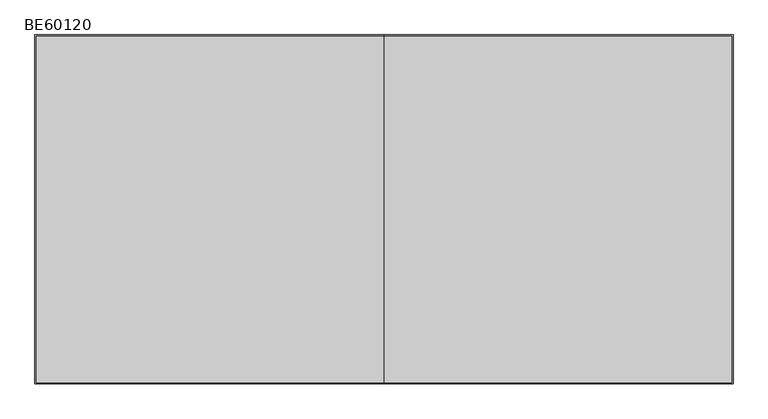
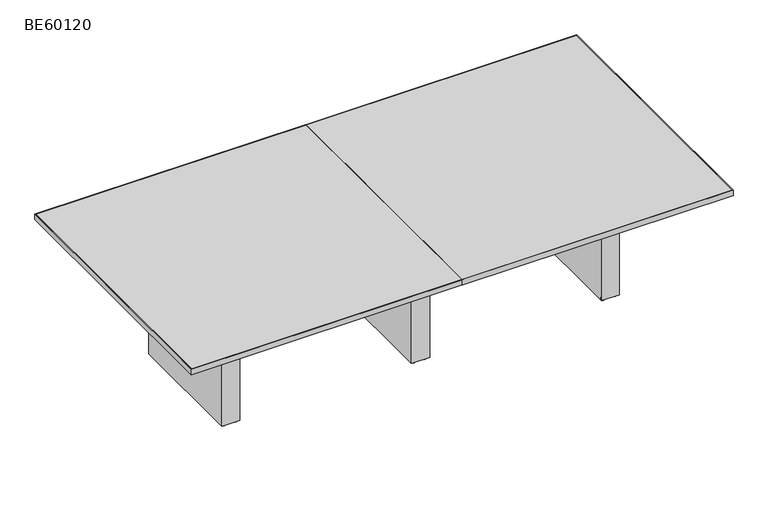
"""IFC4 building model written with IfcOpenShell, lengths in millimetres: furniture geometry, ERG-Beta-Conference_Table-Rectangle : BE60120."""

import ifcopenshell
import ifcopenshell.guid

model = None  # the IFC model being written
_history = None  # IfcOwnerHistory: only IFC2X3 demands one
_inside = {}  # id of a spatial element -> (the spatial element, [elements in it])
_under = {}  # id of a project, library or spatial element -> (it, [spatial elements below it])
_declared = {}  # id of a project -> (the project, [libraries it declares])
_typed = {}  # id of a type object -> (the type object, [elements of that type])
_made_of = {}  # id of a material, layer set ... -> (it, [elements and type objects made of it])


def new_model(schema):
    """Start an empty IFC model of exactly this schema.

    Asked for "IFC4X3", IfcOpenShell would pick the latest addendum, in which some entities
    have other attributes; the version numbers below select the first issue.
    IFC2X3 requires an IfcOwnerHistory on every rooted entity: one is made here for all.
    """
    global model, _history
    if schema == "IFC4X3":
        model = ifcopenshell.file(schema_version=(4, 3, 0, 0))
    else:
        model = ifcopenshell.file(schema=schema)
    _inside.clear()
    _under.clear()
    _declared.clear()
    _typed.clear()
    _made_of.clear()
    _history = None
    if model.schema == "IFC2X3":
        org = make("IfcOrganization", Name="unknown")
        user = make(
            "IfcPersonAndOrganization",
            ThePerson=make("IfcPerson", FamilyName="unknown"),
            TheOrganization=org,
        )
        app = make(
            "IfcApplication",
            ApplicationDeveloper=org,
            Version="unknown",
            ApplicationFullName="unknown",
            ApplicationIdentifier="unknown",
        )
        _history = make(
            "IfcOwnerHistory",
            OwningUser=user,
            OwningApplication=app,
            ChangeAction="ADDED",
            CreationDate=0,
        )
    return model


def make(cls, **values):
    """One entity of the class cls with the attributes given. An attribute that is None is left unset."""
    return model.create_entity(
        cls, **{name: value for name, value in values.items() if value is not None}
    )


def rooted(cls, **values):
    """An entity with a GlobalId (a new one), such as an element, a storey or a relation."""
    return make(cls, GlobalId=ifcopenshell.guid.new(), OwnerHistory=_history, **values)


def si_unit(unit_type, name, prefix=None):
    """IfcSIUnit, for example si_unit("LENGTHUNIT", "METRE", prefix="MILLI")."""
    return make("IfcSIUnit", UnitType=unit_type, Prefix=prefix, Name=name)


def assignment(units):
    """IfcUnitAssignment: the units of a project."""
    return None if units is None else make("IfcUnitAssignment", Units=units)


def point(xyz):
    """IfcCartesianPoint."""
    return None if xyz is None else make("IfcCartesianPoint", Coordinates=xyz)


def direction(xyz):
    """IfcDirection."""
    return None if xyz is None else make("IfcDirection", DirectionRatios=xyz)


def frame(location, z_axis=None, x_axis=None):
    """IfcAxis2Placement3D, a coordinate frame: its origin and axes. An axis left out is left unset."""
    return make(
        "IfcAxis2Placement3D",
        Location=point(location),
        Axis=direction(z_axis),
        RefDirection=direction(x_axis),
    )


def frame_2d(location, x_axis=None):
    """IfcAxis2Placement2D, a coordinate frame in the plane: its origin and x axis."""
    return make(
        "IfcAxis2Placement2D", Location=point(location), RefDirection=direction(x_axis)
    )


def origin():
    """The frame at (0, 0, 0) with its axes left unset."""
    return frame((0.0, 0.0, 0.0))


def origin_with_axes():
    """The frame at (0, 0, 0) with the z axis (0, 0, 1) and the x axis (1, 0, 0) written out."""
    return frame((0.0, 0.0, 0.0), z_axis=(0.0, 0.0, 1.0), x_axis=(1.0, 0.0, 0.0))


def place(relative_to, where):
    """IfcLocalPlacement: puts the frame where relative to a parent placement (None: the world)."""
    return make(
        "IfcLocalPlacement", PlacementRelTo=relative_to, RelativePlacement=where
    )


def context(
    kind, dimensions, precision=None, world=None, true_north=None, identifier=None
):
    """IfcGeometricRepresentationContext, for example the 3D "Model" context."""
    return make(
        "IfcGeometricRepresentationContext",
        ContextIdentifier=identifier,
        ContextType=kind,
        CoordinateSpaceDimension=dimensions,
        Precision=precision,
        WorldCoordinateSystem=world,
        TrueNorth=true_north,
    )


def project(units=None, contexts=None):
    """IfcProject with its units and contexts."""
    return rooted(
        "IfcProject",
        Name="project",
        RepresentationContexts=contexts,
        UnitsInContext=assignment(units),
    )


def spatial(cls, under=None, at=None, **own):
    """A site, building, storey or space (cls), placed at a placement, below another one or the project."""
    s = rooted(cls, ObjectPlacement=at, **own)
    if under is not None:
        _under.setdefault(under.id(), (under, []))[1].append(s)
    return s


def polyline(points):
    """IfcPolyline through the points."""
    return make("IfcPolyline", Points=[point(p) for p in points])


def circle_curve(where, radius):
    """IfcCircle in the frame where."""
    return make("IfcCircle", Position=where, Radius=radius)


def trimmed(basis, trim1, trim2, sense, master):
    """IfcTrimmedCurve: the piece of a basis curve between two trims."""
    return make(
        "IfcTrimmedCurve",
        BasisCurve=basis,
        Trim1=trim1,
        Trim2=trim2,
        SenseAgreement=sense,
        MasterRepresentation=master,
    )


def segment(curve, same_sense, transition):
    """IfcCompositeCurveSegment."""
    return make(
        "IfcCompositeCurveSegment",
        Transition=transition,
        SameSense=same_sense,
        ParentCurve=curve,
    )


def composite_curve(segments, self_intersect=None):
    """IfcCompositeCurve: segments joined end to end."""
    return make("IfcCompositeCurve", Segments=segments, SelfIntersect=self_intersect)


def outline(outer, holes=None, kind="AREA"):
    """IfcArbitraryClosedProfileDef: a profile drawn as a closed curve; with holes, ...WithVoids."""
    if holes is None:
        return make("IfcArbitraryClosedProfileDef", ProfileType=kind, OuterCurve=outer)
    return make(
        "IfcArbitraryProfileDefWithVoids",
        ProfileType=kind,
        OuterCurve=outer,
        InnerCurves=holes,
    )


def extrude(swept, where, along, depth):
    """IfcExtrudedAreaSolid: the profile swept, set in the frame where, extruded along a direction by depth."""
    return make(
        "IfcExtrudedAreaSolid",
        SweptArea=swept,
        Position=where,
        ExtrudedDirection=direction(along),
        Depth=depth,
    )


def shape(context_of_items, identifier, shape_type, items):
    """IfcShapeRepresentation: the items that make up one representation, for example the "Body"."""
    return make(
        "IfcShapeRepresentation",
        ContextOfItems=context_of_items,
        RepresentationIdentifier=identifier,
        RepresentationType=shape_type,
        Items=items,
    )


def source(mapping_origin, context_of_items, identifier, shape_type, items):
    """IfcRepresentationMap: a shape defined once, which mapped items show again and again."""
    return make(
        "IfcRepresentationMap",
        MappingOrigin=mapping_origin,
        MappedRepresentation=shape(context_of_items, identifier, shape_type, items),
    )


def transform(
    local_origin,
    x_axis=None,
    y_axis=None,
    z_axis=None,
    scale=None,
    scale2=None,
    scale3=None,
    uniform=True,
):
    """IfcCartesianTransformationOperator3D, or its non-uniform kind. x_axis, y_axis, z_axis: its Axis1, 2, 3."""
    if uniform:
        return make(
            "IfcCartesianTransformationOperator3D",
            Axis1=direction(x_axis),
            Axis2=direction(y_axis),
            LocalOrigin=point(local_origin),
            Scale=scale,
            Axis3=direction(z_axis),
        )
    return make(
        "IfcCartesianTransformationOperator3DnonUniform",
        Axis1=direction(x_axis),
        Axis2=direction(y_axis),
        LocalOrigin=point(local_origin),
        Scale=scale,
        Axis3=direction(z_axis),
        Scale2=scale2,
        Scale3=scale3,
    )


def mapped(mapping_source, mapping_target):
    """IfcMappedItem: shows the shape of a source again, moved by a transform."""
    return make(
        "IfcMappedItem", MappingSource=mapping_source, MappingTarget=mapping_target
    )


def made_of(thing, what):
    """Note that an element or type object is made of a material, layer set ...; save() writes the relation."""
    if what is not None:
        _made_of.setdefault(what.id(), (what, []))[1].append(thing)
    return thing


def element(
    cls,
    number,
    at=None,
    inside=None,
    cuts=None,
    type_object=None,
    material=None,
    context=None,
    identifier="Body",
    shape_type=None,
    held_by="IfcProductDefinitionShape",
    body=None,
    shapes=None,
    **own,
):
    """One element of the class cls, such as IfcWall. Its Tag is "e" and its number.

    at: its placement. inside: the storey or other place that contains it. cuts: it is an
    opening in that element (IfcRelVoidsElement). A single representation is given by context,
    identifier, shape_type and body (its items); several are given by shapes. held_by: the class
    of the entity that holds the representations. save() writes the other relations.
    """
    e = rooted(cls, Tag="e%d" % number, ObjectPlacement=at, **own)
    if body is not None:
        shapes = [shape(context, identifier, shape_type, body)]
    if shapes is not None:
        e.Representation = make(held_by, Representations=shapes)
    if inside is not None:
        _inside.setdefault(inside.id(), (inside, []))[1].append(e)
    if cuts is not None:
        rooted(
            "IfcRelVoidsElement", RelatingBuildingElement=cuts, RelatedOpeningElement=e
        )
    if type_object is not None:
        _typed.setdefault(type_object.id(), (type_object, []))[1].append(e)
    return made_of(e, material)


def aggregate(whole, parts):
    """IfcRelAggregates: a whole, such as a stair, and the parts it consists of."""
    return rooted("IfcRelAggregates", RelatingObject=whole, RelatedObjects=parts)


def save(model, path):
    """Write the relations noted so far, then the file.

    IfcRelAggregates (storeys below a building ...), IfcRelContainedInSpatialStructure (elements
    in a storey), IfcRelDefinesByType, IfcRelAssociatesMaterial and IfcRelDeclares: one each for
    every whole, place, type object, material and project.
    """
    for whole, parts in _under.values():
        aggregate(whole, parts)
    for where, things in _inside.values():
        rooted(
            "IfcRelContainedInSpatialStructure",
            RelatedElements=things,
            RelatingStructure=where,
        )
    for kind, things in _typed.values():
        rooted("IfcRelDefinesByType", RelatedObjects=things, RelatingType=kind)
    for what, things in _made_of.values():
        rooted("IfcRelAssociatesMaterial", RelatedObjects=things, RelatingMaterial=what)
    for by, libraries in _declared.values():
        rooted("IfcRelDeclares", RelatingContext=by, RelatedDefinitions=libraries)
    model.write(path)


def be60120_ca61224d(model_context):
    return source(origin(), model_context, "Body", "SweptSolid", [
        extrude(outline(composite_curve([segment(trimmed(circle_curve(frame_2d((511.175, 390.276527)), 9.525), [point((501.65, 390.276527))], [point((520.7, 390.276527))], False, "CARTESIAN"), True, "CONTINUOUS"), segment(trimmed(circle_curve(frame_2d((511.175, 390.276527)), 9.525), [point((520.7, 390.276527))], [point((501.65, 390.276527))], False, "CARTESIAN"), True, "CONTINUOUS")], self_intersect=False)), origin_with_axes(), (0.0, 0.0, 1.0), 9.525),
        extrude(outline(composite_curve([segment(trimmed(circle_curve(frame_2d((574.675, 390.276527)), 9.525), [point((565.15, 390.276527))], [point((584.2, 390.276527))], False, "CARTESIAN"), True, "CONTINUOUS"), segment(trimmed(circle_curve(frame_2d((574.675, 390.276527)), 9.525), [point((584.2, 390.276527))], [point((565.15, 390.276527))], False, "CARTESIAN"), True, "CONTINUOUS")], self_intersect=False)), origin_with_axes(), (0.0, 0.0, 1.0), 9.525),
        extrude(outline(composite_curve([segment(trimmed(circle_curve(frame_2d((511.175, -282.823473)), 9.525), [point((501.65, -282.823473))], [point((520.7, -282.823473))], False, "CARTESIAN"), True, "CONTINUOUS"), segment(trimmed(circle_curve(frame_2d((511.175, -282.823473)), 9.525), [point((520.7, -282.823473))], [point((501.65, -282.823473))], False, "CARTESIAN"), True, "CONTINUOUS")], self_intersect=False)), origin_with_axes(), (0.0, 0.0, 1.0), 9.525),
        extrude(outline(composite_curve([segment(trimmed(circle_curve(frame_2d((574.675, -282.823473)), 9.525), [point((565.15, -282.823473))], [point((584.2, -282.823473))], False, "CARTESIAN"), True, "CONTINUOUS"), segment(trimmed(circle_curve(frame_2d((574.675, -282.823473)), 9.525), [point((584.2, -282.823473))], [point((565.15, -282.823473))], False, "CARTESIAN"), True, "CONTINUOUS")], self_intersect=False)), origin_with_axes(), (0.0, 0.0, 1.0), 9.525),
        extrude(outline(polyline([(593.725, 409.326527), (593.725, -301.873473), (492.125, -301.873473), (492.125, 409.326527), (593.725, 409.326527)])), frame((0.0, 0.0, 9.525), z_axis=(0.0, 0.0, 1.0), x_axis=(1.0, 0.0, 0.0)), (0.0, 0.0, 1.0), 695.3249758),
        extrude(outline(composite_curve([segment(trimmed(circle_curve(frame_2d((1577.975, 390.276527)), 9.525), [point((1568.45, 390.276527))], [point((1587.5, 390.276527))], False, "CARTESIAN"), True, "CONTINUOUS"), segment(trimmed(circle_curve(frame_2d((1577.975, 390.276527)), 9.525), [point((1587.5, 390.276527))], [point((1568.45, 390.276527))], False, "CARTESIAN"), True, "CONTINUOUS")], self_intersect=False)), origin_with_axes(), (0.0, 0.0, 1.0), 9.525),
        extrude(outline(composite_curve([segment(trimmed(circle_curve(frame_2d((1641.475, 390.276527)), 9.525), [point((1631.95, 390.276527))], [point((1651.0, 390.276527))], False, "CARTESIAN"), True, "CONTINUOUS"), segment(trimmed(circle_curve(frame_2d((1641.475, 390.276527)), 9.525), [point((1651.0, 390.276527))], [point((1631.95, 390.276527))], False, "CARTESIAN"), True, "CONTINUOUS")], self_intersect=False)), origin_with_axes(), (0.0, 0.0, 1.0), 9.525),
        extrude(outline(composite_curve([segment(trimmed(circle_curve(frame_2d((1577.975, -282.823473)), 9.525), [point((1568.45, -282.823473))], [point((1587.5, -282.823473))], False, "CARTESIAN"), True, "CONTINUOUS"), segment(trimmed(circle_curve(frame_2d((1577.975, -282.823473)), 9.525), [point((1587.5, -282.823473))], [point((1568.45, -282.823473))], False, "CARTESIAN"), True, "CONTINUOUS")], self_intersect=False)), origin_with_axes(), (0.0, 0.0, 1.0), 9.525),
        extrude(outline(composite_curve([segment(trimmed(circle_curve(frame_2d((1641.475, -282.823473)), 9.525), [point((1631.95, -282.823473))], [point((1651.0, -282.823473))], False, "CARTESIAN"), True, "CONTINUOUS"), segment(trimmed(circle_curve(frame_2d((1641.475, -282.823473)), 9.525), [point((1651.0, -282.823473))], [point((1631.95, -282.823473))], False, "CARTESIAN"), True, "CONTINUOUS")], self_intersect=False)), origin_with_axes(), (0.0, 0.0, 1.0), 9.525),
        extrude(outline(polyline([(1660.525, 409.326527), (1660.525, -301.873473), (1558.925, -301.873473), (1558.925, 409.326527), (1660.525, 409.326527)])), frame((0.0, 0.0, 9.525), z_axis=(0.0, 0.0, 1.0), x_axis=(1.0, 0.0, 0.0)), (0.0, 0.0, 1.0), 695.3249758),
        extrude(outline(composite_curve([segment(trimmed(circle_curve(frame_2d((-555.625, 390.276527)), 9.525), [point((-565.15, 390.276527))], [point((-546.1, 390.276527))], False, "CARTESIAN"), True, "CONTINUOUS"), segment(trimmed(circle_curve(frame_2d((-555.625, 390.276527)), 9.525), [point((-546.1, 390.276527))], [point((-565.15, 390.276527))], False, "CARTESIAN"), True, "CONTINUOUS")], self_intersect=False)), origin_with_axes(), (0.0, 0.0, 1.0), 9.525),
        extrude(outline(composite_curve([segment(trimmed(circle_curve(frame_2d((-492.125, 390.276527)), 9.525), [point((-501.65, 390.276527))], [point((-482.6, 390.276527))], False, "CARTESIAN"), True, "CONTINUOUS"), segment(trimmed(circle_curve(frame_2d((-492.125, 390.276527)), 9.525), [point((-482.6, 390.276527))], [point((-501.65, 390.276527))], False, "CARTESIAN"), True, "CONTINUOUS")], self_intersect=False)), origin_with_axes(), (0.0, 0.0, 1.0), 9.525),
        extrude(outline(composite_curve([segment(trimmed(circle_curve(frame_2d((-555.625, -282.823473)), 9.525), [point((-565.15, -282.823473))], [point((-546.1, -282.823473))], False, "CARTESIAN"), True, "CONTINUOUS"), segment(trimmed(circle_curve(frame_2d((-555.625, -282.823473)), 9.525), [point((-546.1, -282.823473))], [point((-565.15, -282.823473))], False, "CARTESIAN"), True, "CONTINUOUS")], self_intersect=False)), origin_with_axes(), (0.0, 0.0, 1.0), 9.525),
        extrude(outline(composite_curve([segment(trimmed(circle_curve(frame_2d((-492.125, -282.823473)), 9.525), [point((-501.65, -282.823473))], [point((-482.6, -282.823473))], False, "CARTESIAN"), True, "CONTINUOUS"), segment(trimmed(circle_curve(frame_2d((-492.125, -282.823473)), 9.525), [point((-482.6, -282.823473))], [point((-501.65, -282.823473))], False, "CARTESIAN"), True, "CONTINUOUS")], self_intersect=False)), origin_with_axes(), (0.0, 0.0, 1.0), 9.525),
        extrude(outline(polyline([(-473.075, 409.326527), (-473.075, -301.873473), (-574.675, -301.873473), (-574.675, 409.326527), (-473.075, 409.326527)])), frame((0.0, 0.0, 9.525), z_axis=(0.0, 0.0, 1.0), x_axis=(1.0, 0.0, 0.0)), (0.0, 0.0, 1.0), 695.3249758),
        extrude(outline(polyline([(2066.925, 815.726527), (2066.925, -708.273473), (544.5125, -708.273473), (544.5125, -705.098473), (2063.75, -705.098473), (2063.75, 812.551527), (544.5125, 812.551527), (544.5125, 815.726527), (2066.925, 815.726527)])), frame((0.0, 0.0, 704.85), z_axis=(0.0, 0.0, 1.0), x_axis=(1.0, 0.0, 0.0)), (0.0, 0.0, 1.0), 31.75),
        extrude(outline(polyline([(-981.075, -708.273473), (-981.075, 815.726527), (541.3375, 815.726527), (541.3375, 812.551527), (-977.9, 812.551527), (-977.9, -705.098473), (541.3375, -705.098473), (541.3375, -708.273473), (-981.075, -708.273473)])), frame((0.0, 0.0, 704.85), z_axis=(0.0, 0.0, 1.0), x_axis=(1.0, 0.0, 0.0)), (0.0, 0.0, 1.0), 31.75),
        extrude(outline(polyline([(2063.75, 812.551527), (2063.75, -705.098473), (544.5125, -705.098473), (544.5125, 812.551527), (2063.75, 812.551527)])), frame((0.0, 0.0, 704.85), z_axis=(0.0, 0.0, 1.0), x_axis=(1.0, 0.0, 0.0)), (0.0, 0.0, 1.0), 31.75),
        extrude(outline(polyline([(-977.9, -705.098473), (-977.9, 812.551527), (541.3375, 812.551527), (541.3375, -705.098473), (-977.9, -705.098473)])), frame((0.0, 0.0, 704.85), z_axis=(0.0, 0.0, 1.0), x_axis=(1.0, 0.0, 0.0)), (0.0, 0.0, 1.0), 31.75),
    ])


if __name__ == "__main__":
    model = new_model("IFC4")
    model_context = context("Model", 3, world=origin())
    ifc_project = project(units=[si_unit("LENGTHUNIT", "METRE", prefix="MILLI")], contexts=[model_context])
    site = spatial("IfcSite", under=ifc_project)
    building = spatial("IfcBuilding", under=site)
    placement = place(None, origin())
    be60120_shape = be60120_ca61224d(model_context)
    element("IfcFurniture", 1, ObjectType="ERG-Beta-Conference_Table-Rectangle : BE60120", at=placement, inside=building, context=model_context, shape_type="MappedRepresentation", body=[
        mapped(be60120_shape, transform((0.0, 0.0, 0.0), x_axis=(1.0, 0.0, 0.0), y_axis=(0.0, 1.0, 0.0), z_axis=(0.0, 0.0, 1.0))),
    ])
    save(model, "model.ifc")
